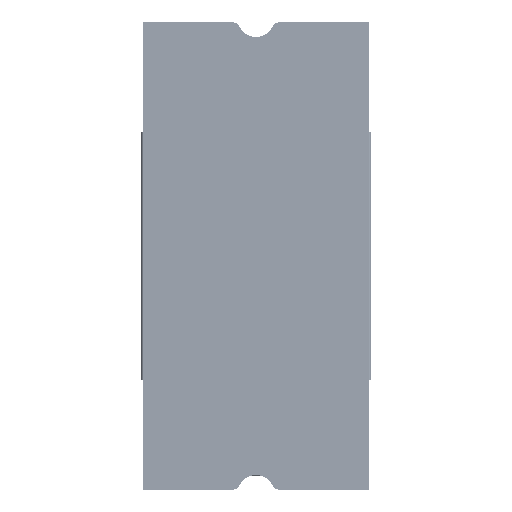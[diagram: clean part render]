
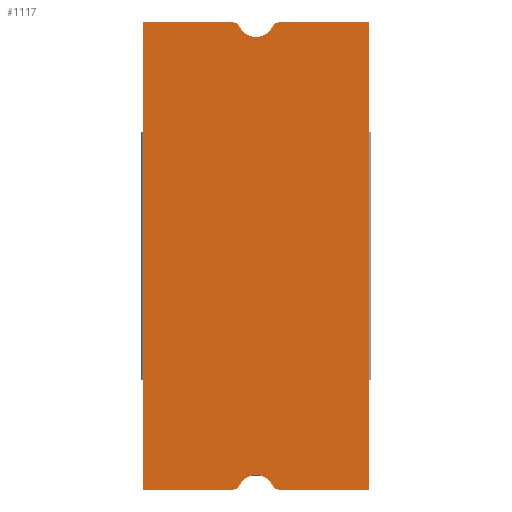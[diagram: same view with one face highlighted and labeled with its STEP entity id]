
A CAD part, front view. The second image highlights one B-rep face of the part: STEP entity #1117.
In plain terms, the highlighted planar face has unit normal (0, -1, 0).
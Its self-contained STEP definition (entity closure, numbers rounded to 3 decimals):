
#82=CARTESIAN_POINT('',(-3.162,-7.25,31.));
#83=DIRECTION('',(0.,-1.,0.));
#84=DIRECTION('',(0.904,0.,0.429));
#85=AXIS2_PLACEMENT_3D('',#82,#83,#84);
#87=CARTESIAN_POINT('',(0.,-7.25,32.5));
#88=DIRECTION('',(0.,1.,0.));
#89=DIRECTION('',(0.904,0.,-0.429));
#90=AXIS2_PLACEMENT_3D('',#87,#88,#89);
#92=CARTESIAN_POINT('',(3.162,-7.25,31.));
#93=DIRECTION('',(0.,-1.,0.));
#94=DIRECTION('',(0.,0.,1.));
#95=AXIS2_PLACEMENT_3D('',#92,#93,#94);
#97=DIRECTION('',(0.,0.,1.));
#98=VECTOR('',#97,64.);
#99=CARTESIAN_POINT('',(15.5,-7.25,-32.));
#100=LINE('',#99,#98);
#101=DIRECTION('',(-1.,0.,0.));
#102=VECTOR('',#101,12.338);
#103=CARTESIAN_POINT('',(15.5,-7.25,-32.));
#104=LINE('',#103,#102);
#105=CARTESIAN_POINT('',(3.162,-7.25,-31.));
#106=DIRECTION('',(0.,-1.,0.));
#107=DIRECTION('',(-0.904,0.,-0.429));
#108=AXIS2_PLACEMENT_3D('',#105,#106,#107);
#110=CARTESIAN_POINT('',(0.,-7.25,-32.5));
#111=DIRECTION('',(0.,1.,0.));
#112=DIRECTION('',(-0.904,0.,0.429));
#113=AXIS2_PLACEMENT_3D('',#110,#111,#112);
#115=CARTESIAN_POINT('',(-3.162,-7.25,-31.));
#116=DIRECTION('',(0.,-1.,0.));
#117=DIRECTION('',(0.,0.,-1.));
#118=AXIS2_PLACEMENT_3D('',#115,#116,#117);
#120=DIRECTION('',(-1.,0.,0.));
#121=VECTOR('',#120,12.338);
#122=CARTESIAN_POINT('',(-3.162,-7.25,-32.));
#123=LINE('',#122,#121);
#162=DIRECTION('',(-1.,0.,0.));
#163=VECTOR('',#162,12.338);
#164=CARTESIAN_POINT('',(-3.162,-7.25,32.));
#165=LINE('',#164,#163);
#246=DIRECTION('',(-1.,0.,0.));
#247=VECTOR('',#246,12.338);
#248=CARTESIAN_POINT('',(15.5,-7.25,32.));
#249=LINE('',#248,#247);
#258=DIRECTION('',(0.,0.,1.));
#259=VECTOR('',#258,64.);
#260=CARTESIAN_POINT('',(-15.5,-7.25,-32.));
#261=LINE('',#260,#259);
#784=CARTESIAN_POINT('',(15.5,-7.25,-32.));
#785=CARTESIAN_POINT('',(15.5,-7.25,32.));
#786=VERTEX_POINT('',#784);
#787=VERTEX_POINT('',#785);
#792=CARTESIAN_POINT('',(-15.5,-7.25,-32.));
#793=CARTESIAN_POINT('',(-15.5,-7.25,32.));
#794=VERTEX_POINT('',#792);
#795=VERTEX_POINT('',#793);
#982=CARTESIAN_POINT('',(-2.259,-7.25,31.429));
#983=VERTEX_POINT('',#982);
#984=CARTESIAN_POINT('',(-3.162,-7.25,32.));
#985=VERTEX_POINT('',#984);
#986=CARTESIAN_POINT('',(3.162,-7.25,32.));
#987=CARTESIAN_POINT('',(2.259,-7.25,31.429));
#988=VERTEX_POINT('',#986);
#989=VERTEX_POINT('',#987);
#994=CARTESIAN_POINT('',(-3.162,-7.25,-32.));
#995=CARTESIAN_POINT('',(-2.259,-7.25,-31.429));
#996=VERTEX_POINT('',#994);
#997=VERTEX_POINT('',#995);
#1006=CARTESIAN_POINT('',(2.259,-7.25,-31.429));
#1007=VERTEX_POINT('',#1006);
#1008=CARTESIAN_POINT('',(3.162,-7.25,-32.));
#1009=VERTEX_POINT('',#1008);
#1089=CARTESIAN_POINT('',(-14.65,-7.25,-32.));
#1090=DIRECTION('',(0.,-1.,0.));
#1091=DIRECTION('',(1.,0.,0.));
#1092=AXIS2_PLACEMENT_3D('',#1089,#1090,#1091);
#1093=PLANE('',#1092);
#1095=ORIENTED_EDGE('',*,*,#1094,.F.);
#1097=ORIENTED_EDGE('',*,*,#1096,.F.);
#1099=ORIENTED_EDGE('',*,*,#1098,.F.);
#1101=ORIENTED_EDGE('',*,*,#1100,.F.);
#1103=ORIENTED_EDGE('',*,*,#1102,.F.);
#1104=ORIENTED_EDGE('',*,*,#1049,.T.);
#1106=ORIENTED_EDGE('',*,*,#1105,.F.);
#1108=ORIENTED_EDGE('',*,*,#1107,.F.);
#1109=ORIENTED_EDGE('',*,*,#1079,.F.);
#1110=ORIENTED_EDGE('',*,*,#1037,.T.);
#1112=ORIENTED_EDGE('',*,*,#1111,.T.);
#1114=ORIENTED_EDGE('',*,*,#1113,.F.);
#1115=EDGE_LOOP('',(#1095,#1097,#1099,#1101,#1103,#1104,#1106,#1108,#1109,#1110,
#1112,#1114));
#1116=FACE_OUTER_BOUND('',#1115,.F.);
#1117=ADVANCED_FACE('',(#1116),#1093,.T.);
#86=CIRCLE('',#85,1.);
#91=CIRCLE('',#90,2.5);
#96=CIRCLE('',#95,1.);
#109=CIRCLE('',#108,1.);
#114=CIRCLE('',#113,2.5);
#119=CIRCLE('',#118,1.);
#1037=EDGE_CURVE('',#996,#794,#123,.T.);
#1049=EDGE_CURVE('',#786,#1009,#104,.T.);
#1079=EDGE_CURVE('',#996,#997,#119,.T.);
#1094=EDGE_CURVE('',#983,#985,#86,.T.);
#1096=EDGE_CURVE('',#989,#983,#91,.T.);
#1098=EDGE_CURVE('',#988,#989,#96,.T.);
#1100=EDGE_CURVE('',#787,#988,#249,.T.);
#1102=EDGE_CURVE('',#786,#787,#100,.T.);
#1105=EDGE_CURVE('',#1007,#1009,#109,.T.);
#1107=EDGE_CURVE('',#997,#1007,#114,.T.);
#1111=EDGE_CURVE('',#794,#795,#261,.T.);
#1113=EDGE_CURVE('',#985,#795,#165,.T.);
